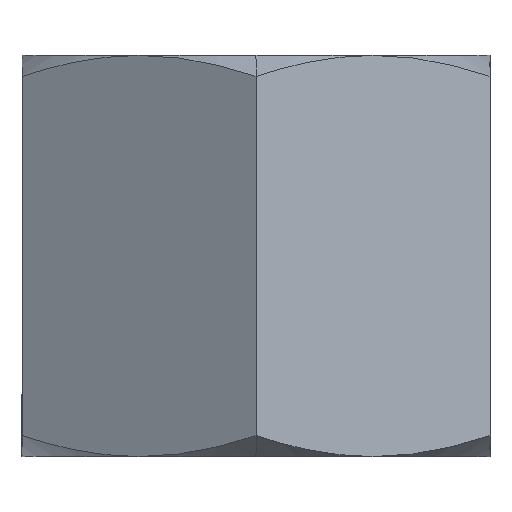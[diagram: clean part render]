
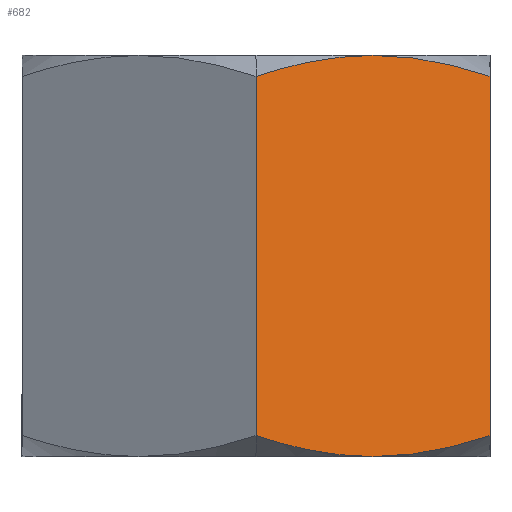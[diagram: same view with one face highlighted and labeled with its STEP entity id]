
A CAD part, left-side view. The second image highlights one B-rep face of the part: STEP entity #682.
In plain terms, the highlighted planar face has unit normal (-0.866, -0.5, 0).
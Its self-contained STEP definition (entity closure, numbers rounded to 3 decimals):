
#25 = CARTESIAN_POINT ( 'NONE',  ( -2.352, -2.926, 2.861 ) ) ;
#38 = CARTESIAN_POINT ( 'NONE',  ( -2.186, -3.214, 2.783 ) ) ;
#54 = CARTESIAN_POINT ( 'NONE',  ( -3.031, -1.75, -3. ) ) ;
#60 = VECTOR ( 'NONE', #640, 1000. ) ;
#61 = AXIS2_PLACEMENT_3D ( 'NONE', #575, #754, #154 ) ;
#62 = ORIENTED_EDGE ( 'NONE', *, *, #323, .F. ) ;
#102 = EDGE_CURVE ( 'NONE', #814, #132, #288, .T. ) ;
#132 = VERTEX_POINT ( 'NONE', #635 ) ;
#154 = DIRECTION ( 'NONE',  ( 0.5, -0.866, 0. ) ) ;
#163 = CARTESIAN_POINT ( 'NONE',  ( -2.021, -3.5, -3. ) ) ;
#168 = B_SPLINE_CURVE_WITH_KNOTS ( 'NONE', 3,
 ( #184, #243, #379, #238 ),
 .UNSPECIFIED., .F., .F.,
 ( 4, 4 ),
 ( 0., 0.002 ),
 .UNSPECIFIED. ) ;
#184 = CARTESIAN_POINT ( 'NONE',  ( -4.041, 0., 2.687 ) ) ;
#187 = CARTESIAN_POINT ( 'NONE',  ( -4.041, 0., 2.687 ) ) ;
#207 = EDGE_LOOP ( 'NONE', ( #62, #615, #214, #669, #285, #677 ) ) ;
#214 = ORIENTED_EDGE ( 'NONE', *, *, #102, .T. ) ;
#238 = CARTESIAN_POINT ( 'NONE',  ( -3.031, -1.75, 3. ) ) ;
#241 = CARTESIAN_POINT ( 'NONE',  ( -2.688, -2.344, 2.97 ) ) ;
#243 = CARTESIAN_POINT ( 'NONE',  ( -3.711, -0.573, 2.878 ) ) ;
#285 = ORIENTED_EDGE ( 'NONE', *, *, #588, .T. ) ;
#288 = B_SPLINE_CURVE_WITH_KNOTS ( 'NONE', 3,
 ( #293, #300, #561, #767 ),
 .UNSPECIFIED., .F., .F.,
 ( 4, 4 ),
 ( 0., 0.002 ),
 .UNSPECIFIED. ) ;
#293 = CARTESIAN_POINT ( 'NONE',  ( -4.041, 0., -2.687 ) ) ;
#296 = EDGE_CURVE ( 'NONE', #396, #391, #332, .T. ) ;
#300 = CARTESIAN_POINT ( 'NONE',  ( -3.711, -0.573, -2.878 ) ) ;
#323 = EDGE_CURVE ( 'NONE', #445, #396, #168, .T. ) ;
#329 = EDGE_CURVE ( 'NONE', #814, #445, #847, .T. ) ;
#332 = B_SPLINE_CURVE_WITH_KNOTS ( 'NONE', 3,
 ( #649, #517, #241, #25, #38, #653 ),
 .UNSPECIFIED., .F., .F.,
 ( 4, 2, 4 ),
 ( 0.002, 0.003, 0.004 ),
 .UNSPECIFIED. ) ;
#379 = CARTESIAN_POINT ( 'NONE',  ( -3.375, -1.154, 3. ) ) ;
#391 = VERTEX_POINT ( 'NONE', #465 ) ;
#396 = VERTEX_POINT ( 'NONE', #732 ) ;
#412 = VERTEX_POINT ( 'NONE', #870 ) ;
#445 = VERTEX_POINT ( 'NONE', #187 ) ;
#460 = B_SPLINE_CURVE_WITH_KNOTS ( 'NONE', 3,
 ( #54, #556, #609, #464, #725, #731 ),
 .UNSPECIFIED., .F., .F.,
 ( 4, 2, 4 ),
 ( 0.002, 0.003, 0.004 ),
 .UNSPECIFIED. ) ;
#464 = CARTESIAN_POINT ( 'NONE',  ( -2.352, -2.926, -2.861 ) ) ;
#465 = CARTESIAN_POINT ( 'NONE',  ( -2.021, -3.5, 2.687 ) ) ;
#493 = LINE ( 'NONE', #163, #60 ) ;
#501 = PLANE ( 'NONE',  #61 ) ;
#506 = EDGE_CURVE ( 'NONE', #132, #412, #460, .T. ) ;
#512 = CARTESIAN_POINT ( 'NONE',  ( -4.041, 0., -3. ) ) ;
#517 = CARTESIAN_POINT ( 'NONE',  ( -2.86, -2.047, 3. ) ) ;
#556 = CARTESIAN_POINT ( 'NONE',  ( -2.86, -2.047, -3. ) ) ;
#561 = CARTESIAN_POINT ( 'NONE',  ( -3.375, -1.154, -3. ) ) ;
#575 = CARTESIAN_POINT ( 'NONE',  ( -4.041, 0., -3. ) ) ;
#587 = CARTESIAN_POINT ( 'NONE',  ( -4.041, 0., -2.687 ) ) ;
#588 = EDGE_CURVE ( 'NONE', #412, #391, #493, .T. ) ;
#609 = CARTESIAN_POINT ( 'NONE',  ( -2.688, -2.344, -2.97 ) ) ;
#615 = ORIENTED_EDGE ( 'NONE', *, *, #329, .F. ) ;
#622 = VECTOR ( 'NONE', #779, 1000. ) ;
#635 = CARTESIAN_POINT ( 'NONE',  ( -3.031, -1.75, -3. ) ) ;
#640 = DIRECTION ( 'NONE',  ( 0., 0., 1. ) ) ;
#649 = CARTESIAN_POINT ( 'NONE',  ( -3.031, -1.75, 3. ) ) ;
#653 = CARTESIAN_POINT ( 'NONE',  ( -2.021, -3.5, 2.687 ) ) ;
#669 = ORIENTED_EDGE ( 'NONE', *, *, #506, .T. ) ;
#677 = ORIENTED_EDGE ( 'NONE', *, *, #296, .F. ) ;
#682 = ADVANCED_FACE ( 'NONE', ( #762 ), #501, .T. ) ;
#725 = CARTESIAN_POINT ( 'NONE',  ( -2.186, -3.214, -2.783 ) ) ;
#731 = CARTESIAN_POINT ( 'NONE',  ( -2.021, -3.5, -2.687 ) ) ;
#732 = CARTESIAN_POINT ( 'NONE',  ( -3.031, -1.75, 3. ) ) ;
#754 = DIRECTION ( 'NONE',  ( -0.866, -0.5, 0. ) ) ;
#762 = FACE_OUTER_BOUND ( 'NONE', #207, .T. ) ;
#767 = CARTESIAN_POINT ( 'NONE',  ( -3.031, -1.75, -3. ) ) ;
#779 = DIRECTION ( 'NONE',  ( 0., 0., 1. ) ) ;
#814 = VERTEX_POINT ( 'NONE', #587 ) ;
#847 = LINE ( 'NONE', #512, #622 ) ;
#870 = CARTESIAN_POINT ( 'NONE',  ( -2.021, -3.5, -2.687 ) ) ;
